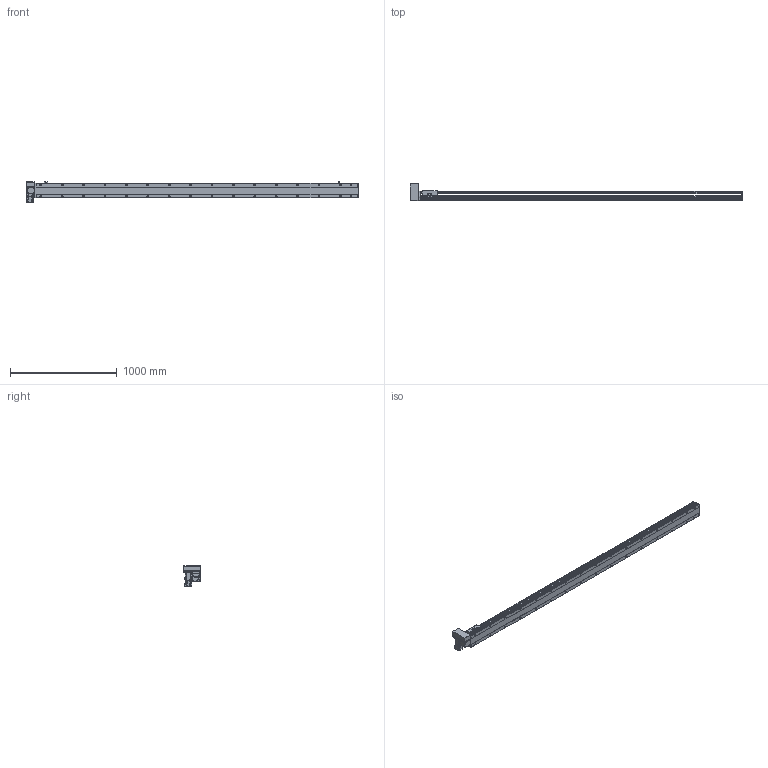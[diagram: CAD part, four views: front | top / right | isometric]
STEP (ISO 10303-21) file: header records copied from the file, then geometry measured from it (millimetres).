
FILE_DESCRIPTION(/* description */ ('STEP AP214'),/* implementation_level */ '2;1');
FILE_NAME(/* name */ 'PBS140S-P40-S2750-RU-T40-C1-N(0)',/* time_stamp */ '2022-06-09T02:57:19+02:00',/* author */ ('License CC BY-ND 4.0'),/* organization */ ('CADENAS'),/* preprocessor_version */ 'ST-DEVELOPER v18.102',/* originating_system */ 'PARTsolutions',/* authorisation */ ' ');
FILE_SCHEMA (('AUTOMOTIVE_DESIGN {1 0 10303 214 3 1 1}'));
Length unit declared in the file: millimetre
Products named in the file (7): PBS140S-P40-S2750-RU-T40-C1-N(0); PBS140S_sensor; PBS140S_plant; PBS140S_sliser; T40-p1; PBS140ST-RU_motors; PBS140S-S2750()_body
Assembly tree (8 placements, depth 2):
  PBS140S-P40-S2750-RU-T40-C1-N(0)
    PBS140S_sensor  x3
    PBS140S_plant
    PBS140S_sliser
    T40-p1
    PBS140ST-RU_motors
    PBS140S-S2750()_body
Bounding box: 3104 x 162.5 x 189.7 mm (x, y, z)
Volume: 15007797.6 mm3; surface area: 2523406.1 mm2
Topology: 8 solids, 8 shells, 1227 faces, 3231 edges, 2113 vertices
Faces by surface type: plane 750, cylinder 409, cone 58, sphere 8, torus 2
Full cylindrical faces by diameter (mm): 3.242 x4, 4 x2, 4.134 x4, 4.4 x8, 4.5 x2, 4.8 x4, 4.917 x40, 5.5 x7, 6 x2, 7 x34, 7.5 x8, 8 x12, 8.5 x4, 10.5 x32, 14 x1, 30 x2, 50 x2
Entity records: 35160 total; most frequent: CARTESIAN_POINT 6712, DIRECTION 5908, ORIENTED_EDGE 5542, EDGE_CURVE 2771, AXIS2_PLACEMENT_3D 2099, VERTEX_POINT 1945, LINE 1710, VECTOR 1710
